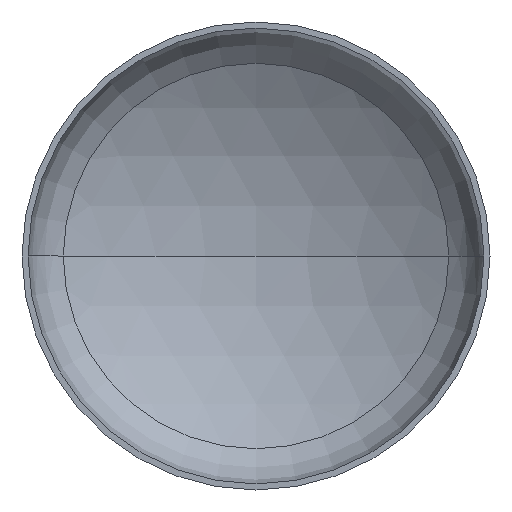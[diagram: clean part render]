
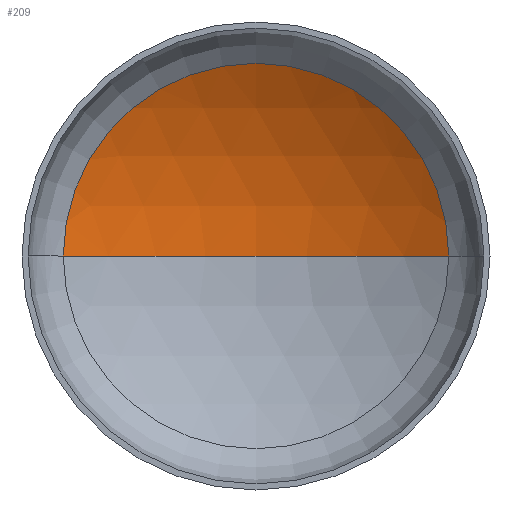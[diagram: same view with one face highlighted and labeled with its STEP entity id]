
A CAD part, front view. The second image highlights one B-rep face of the part: STEP entity #209.
In plain terms, the highlighted spherical face has radius 800 mm.
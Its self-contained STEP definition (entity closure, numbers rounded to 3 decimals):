
#8 = EDGE_LOOP ( 'NONE', ( #116, #127, #106 ) ) ;
#16 = VERTEX_POINT ( 'NONE', #266 ) ;
#18 = CARTESIAN_POINT ( 'NONE',  ( 0., 172.89, 0. ) ) ;
#39 = AXIS2_PLACEMENT_3D ( 'NONE', #267, #393, #287 ) ;
#44 = AXIS2_PLACEMENT_3D ( 'NONE', #229, #227, #228 ) ;
#46 = AXIS2_PLACEMENT_3D ( 'NONE', #409, #277, #206 ) ;
#51 = AXIS2_PLACEMENT_3D ( 'NONE', #18, #119, #299 ) ;
#52 = VERTEX_POINT ( 'NONE', #259 ) ;
#106 = ORIENTED_EDGE ( 'NONE', *, *, #161, .T. ) ;
#116 = ORIENTED_EDGE ( 'NONE', *, *, #171, .F. ) ;
#119 = DIRECTION ( 'NONE',  ( 0., -1., 0. ) ) ;
#127 = ORIENTED_EDGE ( 'NONE', *, *, #166, .T. ) ;
#147 = VERTEX_POINT ( 'NONE', #203 ) ;
#161 = EDGE_CURVE ( 'NONE', #147, #16, #403, .T. ) ;
#166 = EDGE_CURVE ( 'NONE', #52, #147, #289, .T. ) ;
#171 = EDGE_CURVE ( 'NONE', #52, #16, #286, .T. ) ;
#203 = CARTESIAN_POINT ( 'NONE',  ( 411.783, 172.89, 0. ) ) ;
#206 = DIRECTION ( 'NONE',  ( -1., 0., 0. ) ) ;
#209 = ADVANCED_FACE ( 'NONE', ( #226 ), #346, .F. ) ;
#226 = FACE_OUTER_BOUND ( 'NONE', #8, .T. ) ;
#227 = DIRECTION ( 'NONE',  ( 0., 0., 1. ) ) ;
#228 = DIRECTION ( 'NONE',  ( 1., 0., 0. ) ) ;
#229 = CARTESIAN_POINT ( 'NONE',  ( 0., -512.993, 0. ) ) ;
#259 = CARTESIAN_POINT ( 'NONE',  ( 0., 287.007, 0. ) ) ;
#266 = CARTESIAN_POINT ( 'NONE',  ( -411.783, 172.89, 0. ) ) ;
#267 = CARTESIAN_POINT ( 'NONE',  ( 0., -512.993, 0. ) ) ;
#277 = DIRECTION ( 'NONE',  ( 0., 0., -1. ) ) ;
#286 = CIRCLE ( 'NONE', #44, 800. ) ;
#287 = DIRECTION ( 'NONE',  ( -1., 0., 0. ) ) ;
#289 = CIRCLE ( 'NONE', #46, 800. ) ;
#299 = DIRECTION ( 'NONE',  ( 1., 0., 0. ) ) ;
#346 = SPHERICAL_SURFACE ( 'NONE', #39, 800. ) ;
#393 = DIRECTION ( 'NONE',  ( 0., 0., -1. ) ) ;
#403 = CIRCLE ( 'NONE', #51, 411.783 ) ;
#409 = CARTESIAN_POINT ( 'NONE',  ( 0., -512.993, 0. ) ) ;
